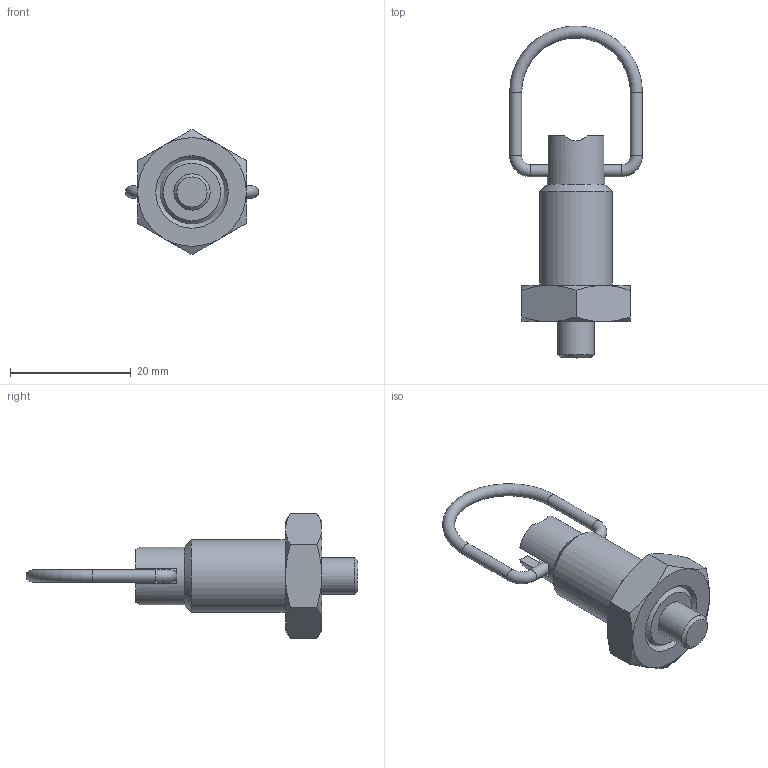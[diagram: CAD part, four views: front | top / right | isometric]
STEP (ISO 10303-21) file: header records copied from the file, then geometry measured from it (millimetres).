
FILE_DESCRIPTION( ( 'STEP AP203' ), '1' );
FILE_NAME( 'C:/Temp/Ganter_Step_05_03_2020/data/3_1/gn_413/gn413_ni/gn413_ni_ck/Stainless Steel Indexing plunger GN 413-6-M12x1,5-CK-NI (deactivated 0).stp', '2020-03-12T09:11:34', ( 'License CC BY-ND 4.0' ), ( 'CADENAS' ), ' ', 'PARTsolutions', ' ' );
FILE_SCHEMA( ( 'CONFIG_CONTROL_DESIGN' ) );
Length unit declared in the file: millimetre
Products named in the file (4): Stainless Steel Indexing plunger GN 413-6-M12x1,5-CK-NI (deactivated 0); _Stainless Steel Indexing plunger GN 413-6-M12-CK-NI (1)_f; _Stainless Steel Indexing plunger GN 413-6-M12-CK-NI (1)_b; _Stainless Steel Indexing plunger GN 413-6-M12-CK-NI (1)_km
Assembly tree (3 placements, depth 2):
  Stainless Steel Indexing plunger GN 413-6-M12x1,5-CK-NI (deactivated 0)
    _Stainless Steel Indexing plunger GN 413-6-M12-CK-NI (1)_f
    _Stainless Steel Indexing plunger GN 413-6-M12-CK-NI (1)_b
    _Stainless Steel Indexing plunger GN 413-6-M12-CK-NI (1)_km
Bounding box: 22 x 54.99 x 20.78 mm (x, y, z)
Volume: 4297 mm3; surface area: 3930.4 mm2
Topology: 3 solids, 3 shells, 67 faces, 147 edges, 90 vertices
Faces by surface type: plane 26, cone 22, cylinder 16, torus 3
Full cylindrical faces by diameter (mm): 2 x4, 6 x4, 6.3 x1, 8 x2, 9.6 x1, 10.106 x1, 12 x1
Entity records: 2015 total; most frequent: CARTESIAN_POINT 547, DIRECTION 282, ORIENTED_EDGE 238, AXIS2_PLACEMENT_3D 128, EDGE_CURVE 119, EDGE_LOOP 100, VERTEX_POINT 85, FACE_OUTER_BOUND 84
